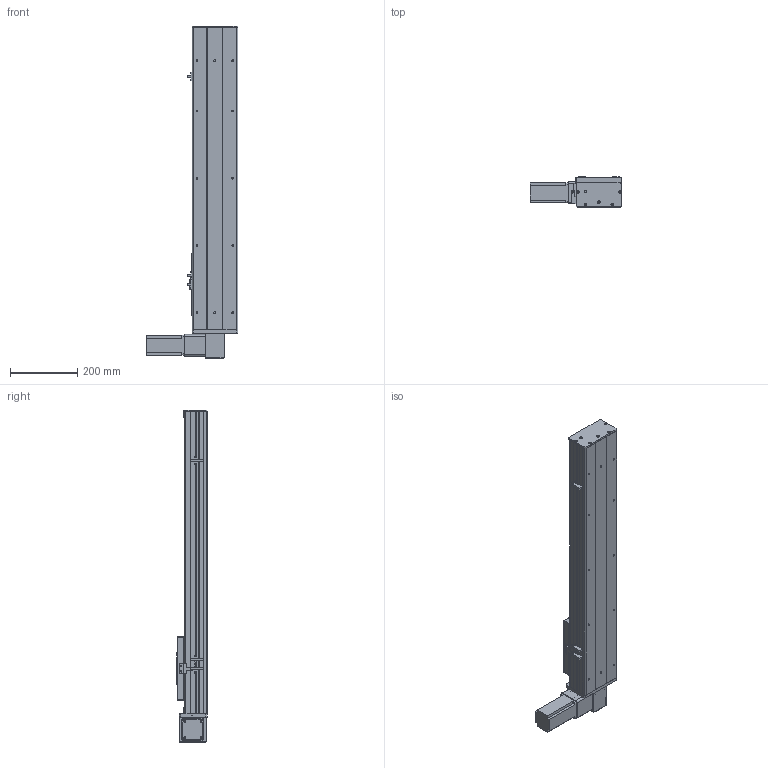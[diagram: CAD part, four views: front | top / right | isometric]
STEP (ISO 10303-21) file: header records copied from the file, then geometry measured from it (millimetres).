
FILE_DESCRIPTION (( 'STEP AP203' ), '1' );
FILE_NAME ('Y135CB-D90-S600-BD-P400W.STEP', '2020-02-19T02:59:08', ( '微软用户' ), ( '微软中国' ), 'SwSTEP 2.0', 'SolidWorks 2017', '' );
FILE_SCHEMA (( 'CONFIG_CONTROL_DESIGN' ));
Length unit declared in the file: millimetre
Products named in the file (16): C-雄赽釱--; san松下电机400不带刹车----; Y10B--々湍喘謫眊--666; 5CB --掛极耜裔啣-; 0B-薊粣ん眊; C-詩湍揤踡え-陔; Y135CB-D90-S600-BD-P400W; 135CB--詩湍-CE; Y135CB-耜裔; 135CB---遴掛极.-; Y100-135俋离換覜ん--; 35CB---喘謫眊楊擘啣; Y135C-陔俋离換覜結え-; 0B-埴倛裔啣; 5C--俋欶; 0B-源倛裔啣
Assembly tree (19 placements, depth 2):
  Y135CB-D90-S600-BD-P400W
    Y135CB-耜裔
    135CB---遴掛极.-
    35CB---喘謫眊楊擘啣
    0B-埴倛裔啣
    0B-源倛裔啣
    san松下电机400不带刹车----
    5CB --掛极耜裔啣-  x2
    C-詩湍揤踡え-陔  x2
    135CB--詩湍-CE
    Y100-135俋离換覜ん--  x3
    Y135C-陔俋离換覜結え-
    5C--俋欶
    C-雄赽釱--
    Y10B--々湍喘謫眊--666
    0B-薊粣ん眊
Bounding box: 272 x 91 x 988 mm (x, y, z)
Volume: 3348027.9 mm3; surface area: 1255488.5 mm2
Topology: 19 solids, 19 shells, 847 faces, 2230 edges, 1476 vertices
Faces by surface type: cylinder 416, plane 415, cone 16
Entity records: 25602 total; most frequent: DIRECTION 4266, CARTESIAN_POINT 4159, ORIENTED_EDGE 3936, EDGE_CURVE 1968, AXIS2_PLACEMENT_3D 1559, VERTEX_POINT 1304, LINE 1148, VECTOR 1148
